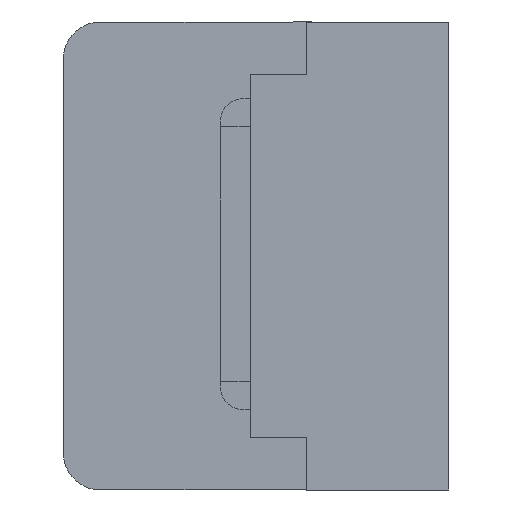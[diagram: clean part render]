
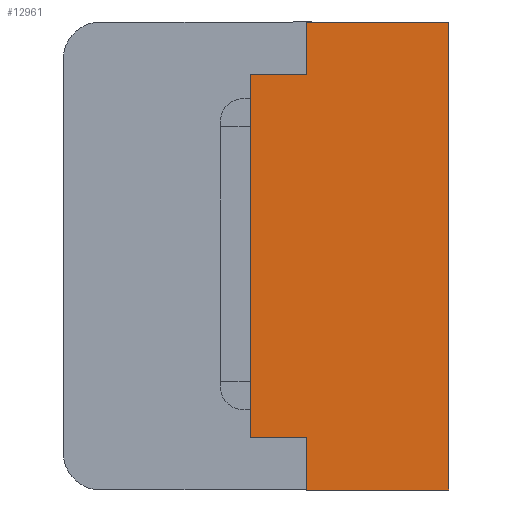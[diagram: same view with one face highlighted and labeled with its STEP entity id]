
A CAD part, left-side view. The second image highlights one B-rep face of the part: STEP entity #12961.
In plain terms, the highlighted planar face has unit normal (-1, 0, 0).
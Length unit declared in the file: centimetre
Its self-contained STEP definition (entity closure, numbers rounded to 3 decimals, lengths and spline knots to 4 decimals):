
#876=PLANE('',#21230);
#1596=VECTOR('',#14189,1.);
#1661=VECTOR('',#14289,1.);
#1663=VECTOR('',#14294,1.);
#1672=VECTOR('',#14304,1.);
#2023=VECTOR('',#15102,1.);
#2024=VECTOR('',#15103,1.);
#2025=VECTOR('',#15104,1.);
#2026=VECTOR('',#15105,1.);
#3002=LINE('',#17767,#1596);
#3067=LINE('',#17912,#1661);
#3069=LINE('',#17918,#1663);
#3078=LINE('',#17935,#1672);
#3429=LINE('',#19141,#2023);
#3430=LINE('',#19143,#2024);
#3431=LINE('',#19144,#2025);
#3432=LINE('',#19146,#2026);
#4344=VERTEX_POINT('',#17766);
#4345=VERTEX_POINT('',#17768);
#4386=VERTEX_POINT('',#17884);
#4399=VERTEX_POINT('',#17911);
#4401=VERTEX_POINT('',#17917);
#4409=VERTEX_POINT('',#17936);
#4745=VERTEX_POINT('',#19142);
#4746=VERTEX_POINT('',#19145);
#6024=EDGE_CURVE('',#4344,#4345,#3002,.T.);
#6096=EDGE_CURVE('',#4399,#4386,#3067,.T.);
#6099=EDGE_CURVE('',#4386,#4401,#3069,.T.);
#6108=EDGE_CURVE('',#4401,#4409,#3078,.T.);
#6630=EDGE_CURVE('',#4745,#4399,#3429,.T.);
#6631=EDGE_CURVE('',#4345,#4745,#3430,.T.);
#6632=EDGE_CURVE('',#4746,#4344,#3431,.T.);
#6633=EDGE_CURVE('',#4409,#4746,#3432,.T.);
#9893=ORIENTED_EDGE('',*,*,#6630,.F.);
#9894=ORIENTED_EDGE('',*,*,#6631,.F.);
#9895=ORIENTED_EDGE('',*,*,#6024,.F.);
#9896=ORIENTED_EDGE('',*,*,#6632,.F.);
#9897=ORIENTED_EDGE('',*,*,#6633,.F.);
#9898=ORIENTED_EDGE('',*,*,#6108,.F.);
#9899=ORIENTED_EDGE('',*,*,#6099,.F.);
#9900=ORIENTED_EDGE('',*,*,#6096,.F.);
#11463=EDGE_LOOP('',(#9893,#9894,#9895,#9896,#9897,#9898,#9899,#9900));
#12237=FACE_BOUND('',#11463,.T.);
#12961=ADVANCED_FACE('',(#12237),#876,.F.);
#14189=DIRECTION('',(0.,0.,1.));
#14289=DIRECTION('',(0.,-1.,0.));
#14294=DIRECTION('',(0.,0.,-1.));
#14304=DIRECTION('',(0.,1.,0.));
#15101=DIRECTION('',(1.,0.,0.));
#15102=DIRECTION('',(0.,0.,1.));
#15103=DIRECTION('',(0.,-1.,0.));
#15104=DIRECTION('',(0.,1.,0.));
#15105=DIRECTION('',(0.,0.,1.));
#17766=CARTESIAN_POINT('',(-1.382,0.53,-0.485));
#17767=CARTESIAN_POINT('',(-1.382,0.53,-0.485));
#17768=CARTESIAN_POINT('',(-1.382,0.53,0.485));
#17884=CARTESIAN_POINT('',(-1.382,0.,0.625));
#17911=CARTESIAN_POINT('',(-1.382,0.38,0.625));
#17912=CARTESIAN_POINT('',(-1.382,0.38,0.625));
#17917=CARTESIAN_POINT('',(-1.382,0.,-0.625));
#17918=CARTESIAN_POINT('',(-1.382,0.,0.625));
#17935=CARTESIAN_POINT('',(-1.382,0.,-0.625));
#17936=CARTESIAN_POINT('',(-1.382,0.38,-0.625));
#19140=CARTESIAN_POINT('',(-1.382,0.2532,0.));
#19141=CARTESIAN_POINT('',(-1.382,0.38,0.485));
#19142=CARTESIAN_POINT('',(-1.382,0.38,0.485));
#19143=CARTESIAN_POINT('',(-1.382,0.53,0.485));
#19144=CARTESIAN_POINT('',(-1.382,0.38,-0.485));
#19145=CARTESIAN_POINT('',(-1.382,0.38,-0.485));
#19146=CARTESIAN_POINT('',(-1.382,0.38,-0.625));
#21230=AXIS2_PLACEMENT_3D('',#19140,#15101,$);
